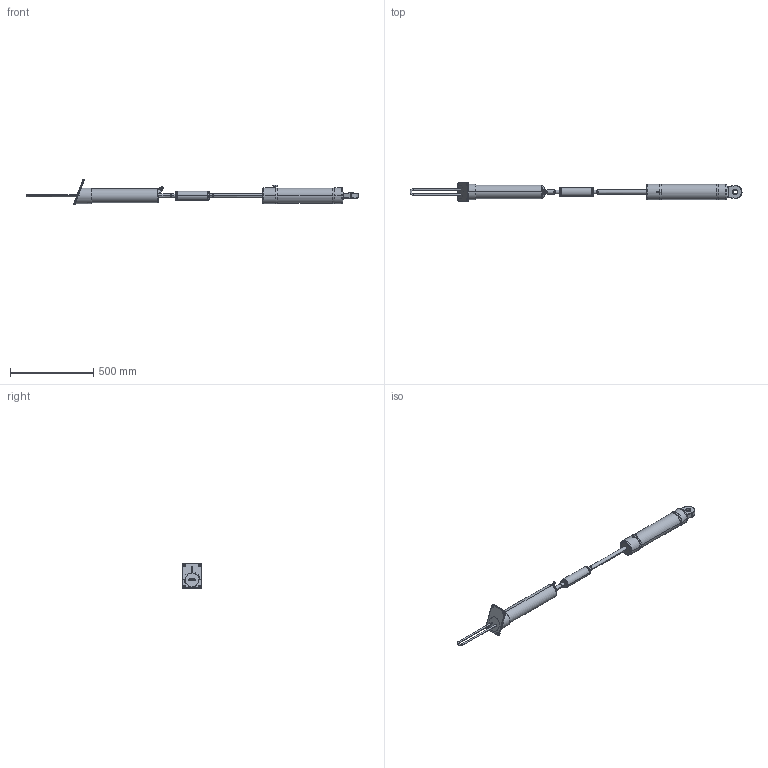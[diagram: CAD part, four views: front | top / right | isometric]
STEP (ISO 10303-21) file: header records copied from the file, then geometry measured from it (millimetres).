
FILE_DESCRIPTION (( 'STEP AP203' ), '1' );
FILE_NAME ('PT_070_S_0270.STEP', '2018-06-04T12:11:42', ( 'utente' ), ( 'Hewlett-Packard Company' ), 'SwSTEP 2.0', 'SolidWorks 2015', '' );
FILE_SCHEMA (( 'CONFIG_CONTROL_DESIGN' ));
Length unit declared in the file: millimetre
Products named in the file (1): PT_070_S_0270
Bounding box: 1999.95 x 115 x 153.21 mm (x, y, z)
Volume: 6974177.1 mm3; surface area: 434463.7 mm2
Topology: 1 solids, 1 shells, 341 faces, 807 edges, 483 vertices
Faces by surface type: plane 117, cylinder 107, cone 66, torus 39, bspline 8, sphere 4
Entity records: 10566 total; most frequent: CARTESIAN_POINT 2775, DIRECTION 1655, ORIENTED_EDGE 1608, EDGE_CURVE 804, AXIS2_PLACEMENT_3D 658, VERTEX_POINT 482, EDGE_LOOP 370, FACE_OUTER_BOUND 341
